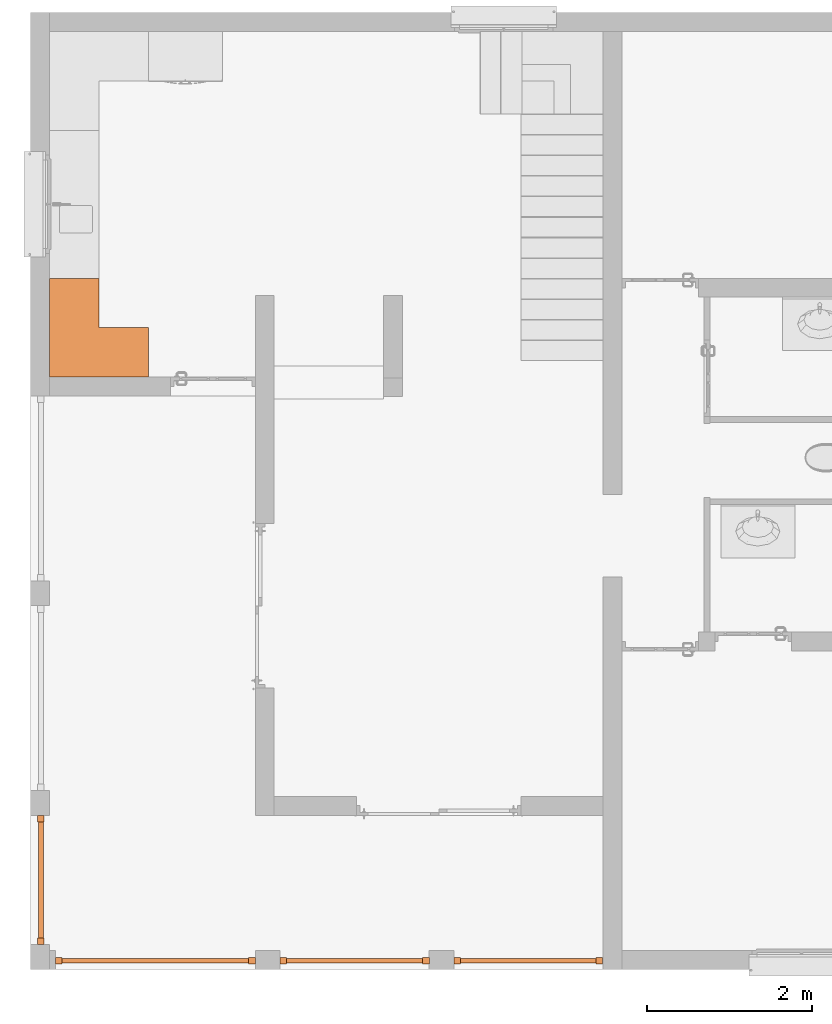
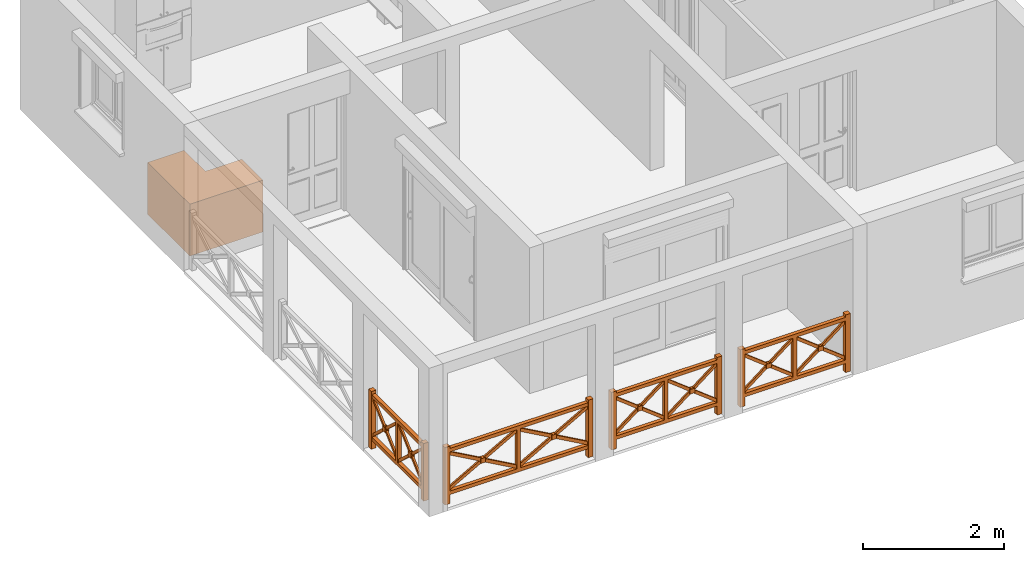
# One storey, part 13 of 17: 5 proxies.
"""IFC2X3 building model written with IfcOpenShell, lengths in metres."""

from ifc_helpers import new_model, entity, si_unit, converted_unit, derived_unit, money_unit, direction, frame, origin_with_axes, place, context, subcontext, project, spatial, faceted_brep, type_object, element, save


model = new_model("IFC2X3")

# Units and contexts
model_context = context("Model", 3, precision=1e-05, world=origin_with_axes(), true_north=direction((0.0, 1.0)))
body_context = subcontext(model_context, "Body", "Model", "MODEL_VIEW")
ifc_project = project(units=[si_unit("LENGTHUNIT", "METRE"), si_unit("AREAUNIT", "SQUARE_METRE"), si_unit("VOLUMEUNIT", "CUBIC_METRE"), converted_unit("PLANEANGLEUNIT", "DEGREE", entity("IfcPlaneAngleMeasure", 0.0174532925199), si_unit("PLANEANGLEUNIT", "RADIAN"), dimensions=[0, 0, 0, 0, 0, 0, 0]), si_unit("SOLIDANGLEUNIT", "STERADIAN"), money_unit("CHF"), converted_unit("TIMEUNIT", "Year", entity("IfcTimeMeasure", 31556926.0), si_unit("TIMEUNIT", "SECOND"), dimensions=[0, 0, 1, 0, 0, 0, 0]), si_unit("MASSUNIT", "GRAM", prefix="KILO"), si_unit("THERMODYNAMICTEMPERATUREUNIT", "DEGREE_CELSIUS"), si_unit("LUMINOUSINTENSITYUNIT", "LUMEN"), si_unit("ENERGYUNIT", "JOULE", prefix="MEGA"), derived_unit("THERMALCONDUCTANCEUNIT", [(si_unit("POWERUNIT", "WATT"), 1), (si_unit("LENGTHUNIT", "METRE"), -1), (si_unit("THERMODYNAMICTEMPERATUREUNIT", "KELVIN"), -1)]), derived_unit("SPECIFICHEATCAPACITYUNIT", [(si_unit("ENERGYUNIT", "JOULE"), 1), (si_unit("MASSUNIT", "GRAM", prefix="KILO"), -1), (si_unit("THERMODYNAMICTEMPERATUREUNIT", "KELVIN"), -1)]), derived_unit("MASSDENSITYUNIT", [(si_unit("MASSUNIT", "GRAM", prefix="KILO"), 1), (si_unit("VOLUMEUNIT", "CUBIC_METRE"), -1)])], contexts=[model_context])

# Site, building, storey
site_placement = place(None, origin_with_axes())
site = spatial("IfcSite", under=ifc_project, at=site_placement, Name="Site", CompositionType="ELEMENT")
building_placement = place(site_placement, origin_with_axes())
building = spatial("IfcBuilding", under=site, at=building_placement, Name="Bâtiment", CompositionType="ELEMENT")
storey_placement = place(building_placement, frame((0.0, 0.0, 3.0), z_axis=(0.0, 0.0, 1.0), x_axis=(1.0, 0.0, 0.0)))
storey = spatial("IfcBuildingStorey", under=building, at=storey_placement, Name="RDJ", CompositionType="ELEMENT", Elevation=3.0)

# Proxies
building_element_proxy_type_1 = type_object("IfcBuildingElementProxyType", PredefinedType="NOTDEFINED")
proxy_1_placement = place(storey_placement, frame((84.907056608, 8.26538199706, -3.00999998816), z_axis=(0.0, 0.0, 1.0), x_axis=(0.0, 1.0, 0.0)))
element("IfcBuildingElementProxy", 1, at=proxy_1_placement, inside=storey, type_object=building_element_proxy_type_1, Name="MOB-1224", context=body_context, shape_type="Brep", body=[
    faceted_brep([(0.70388460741, -0.04, 0.0), (0.70388460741, 0.04, 0.0), (0.78388460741, 0.04, 0.0), (0.78388460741, -0.04, 0.0), (0.70388460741, -0.04, 1.0), (0.70388460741, 0.04, 1.0), (0.78388460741, 0.04, 1.0), (0.78388460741, -0.04, 1.0)], [[[0, 1, 2, 3]], [[0, 4, 5, 1]], [[1, 5, 6, 2]], [[2, 6, 7, 3]], [[3, 7, 4, 0]], [[7, 6, 5, 4]]]),
    faceted_brep([(-0.78388460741, -0.04, 0.0), (-0.78388460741, 0.04, 0.0), (-0.70388460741, 0.04, 0.0), (-0.70388460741, -0.04, 0.0), (-0.78388460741, -0.04, 1.0), (-0.78388460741, 0.04, 1.0), (-0.70388460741, 0.04, 1.0), (-0.70388460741, -0.04, 1.0)], [[[0, 1, 2, 3]], [[0, 4, 5, 1]], [[1, 5, 6, 2]], [[2, 6, 7, 3]], [[3, 7, 4, 0]], [[7, 6, 5, 4]]]),
    faceted_brep([(-0.03, -0.03, 0.21), (-0.03, 0.03, 0.21), (0.03, 0.03, 0.21), (0.03, -0.03, 0.21), (-0.03, -0.03, 0.89), (-0.03, 0.03, 0.89), (0.03, 0.03, 0.89), (0.03, -0.03, 0.89)], [[[0, 1, 2, 3]], [[0, 4, 5, 1]], [[1, 5, 6, 2]], [[2, 6, 7, 3]], [[3, 7, 4, 0]], [[7, 6, 5, 4]]]),
    faceted_brep([(-0.70388460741, -0.03, 0.89), (-0.70388460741, 0.03, 0.89), (0.70388460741, 0.03, 0.89), (0.70388460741, -0.03, 0.89), (-0.70388460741, -0.03, 0.95), (-0.70388460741, 0.03, 0.95), (0.70388460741, 0.03, 0.95), (0.70388460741, -0.03, 0.95)], [[[0, 1, 2, 3]], [[0, 4, 5, 1]], [[1, 5, 6, 2]], [[2, 6, 7, 3]], [[3, 7, 4, 0]], [[7, 6, 5, 4]]]),
    faceted_brep([(-0.70388460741, -0.03, 0.15), (-0.70388460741, 0.03, 0.15), (0.70388460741, 0.03, 0.15), (0.70388460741, -0.03, 0.15), (-0.70388460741, -0.03, 0.21), (-0.70388460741, 0.03, 0.21), (0.70388460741, 0.03, 0.21), (0.70388460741, -0.03, 0.21)], [[[0, 1, 2, 3]], [[0, 4, 5, 1]], [[1, 5, 6, 2]], [[2, 6, 7, 3]], [[3, 7, 4, 0]], [[7, 6, 5, 4]]]),
    faceted_brep([(0.70388460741, 0.015, 0.21), (0.70388460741, -0.015, 0.21), (0.03, -0.015, 0.83), (0.03, 0.015, 0.83), (0.70388460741, 0.015, 0.27), (0.70388460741, -0.015, 0.27), (0.03, -0.015, 0.89), (0.03, 0.015, 0.89)], [[[0, 1, 2, 3]], [[4, 5, 1, 0]], [[1, 5, 6, 2]], [[3, 2, 6, 7]], [[0, 3, 7, 4]], [[7, 6, 5, 4]]]),
    faceted_brep([(0.70388460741, 0.015, 0.89), (0.70388460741, -0.015, 0.89), (0.70388460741, -0.015, 0.83), (0.70388460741, 0.015, 0.83), (0.03, 0.015, 0.27), (0.03, -0.015, 0.27), (0.03, -0.015, 0.21), (0.03, 0.015, 0.21)], [[[0, 1, 2, 3]], [[4, 5, 1, 0]], [[1, 5, 6, 2]], [[3, 2, 6, 7]], [[0, 3, 7, 4]], [[7, 6, 5, 4]]]),
    faceted_brep([(0.326942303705, -0.03, 0.51), (0.326942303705, 0.03, 0.51), (0.406942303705, 0.03, 0.51), (0.406942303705, -0.03, 0.51), (0.326942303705, -0.03, 0.59), (0.326942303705, 0.03, 0.59), (0.406942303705, 0.03, 0.59), (0.406942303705, -0.03, 0.59)], [[[0, 1, 2, 3]], [[0, 4, 5, 1]], [[1, 5, 6, 2]], [[2, 6, 7, 3]], [[3, 7, 4, 0]], [[7, 6, 5, 4]]]),
    faceted_brep([(-0.03, 0.015, 0.21), (-0.03, -0.015, 0.21), (-0.70388460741, -0.015, 0.83), (-0.70388460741, 0.015, 0.83), (-0.03, 0.015, 0.27), (-0.03, -0.015, 0.27), (-0.70388460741, -0.015, 0.89), (-0.70388460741, 0.015, 0.89)], [[[0, 1, 2, 3]], [[4, 5, 1, 0]], [[1, 5, 6, 2]], [[3, 2, 6, 7]], [[0, 3, 7, 4]], [[7, 6, 5, 4]]]),
    faceted_brep([(-0.03, 0.015, 0.89), (-0.03, -0.015, 0.89), (-0.03, -0.015, 0.83), (-0.03, 0.015, 0.83), (-0.70388460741, 0.015, 0.27), (-0.70388460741, -0.015, 0.27), (-0.70388460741, -0.015, 0.21), (-0.70388460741, 0.015, 0.21)], [[[0, 1, 2, 3]], [[4, 5, 1, 0]], [[1, 5, 6, 2]], [[3, 2, 6, 7]], [[0, 3, 7, 4]], [[7, 6, 5, 4]]]),
    faceted_brep([(-0.406942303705, -0.03, 0.51), (-0.406942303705, 0.03, 0.51), (-0.326942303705, 0.03, 0.51), (-0.326942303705, -0.03, 0.51), (-0.406942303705, -0.03, 0.59), (-0.406942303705, 0.03, 0.59), (-0.326942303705, 0.03, 0.59), (-0.326942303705, -0.03, 0.59)], [[[0, 1, 2, 3]], [[0, 4, 5, 1]], [[1, 5, 6, 2]], [[2, 6, 7, 3]], [[3, 7, 4, 0]], [[7, 6, 5, 4]]]),
])
proxy_2_placement = place(storey_placement, frame((86.2985190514, 7.28431482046, -3.00999998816), z_axis=(0.0, 0.0, 1.0), x_axis=(1.0, 0.0, 0.0)))
element("IfcBuildingElementProxy", 2, at=proxy_2_placement, inside=storey, type_object=building_element_proxy_type_1, Name="MOB-1224", context=body_context, shape_type="Brep", body=[
    faceted_brep([(1.135, -0.04, 0.0), (1.135, 0.04, 0.0), (1.215, 0.04, 0.0), (1.215, -0.04, 0.0), (1.135, -0.04, 1.0), (1.135, 0.04, 1.0), (1.215, 0.04, 1.0), (1.215, -0.04, 1.0)], [[[0, 1, 2, 3]], [[0, 4, 5, 1]], [[1, 5, 6, 2]], [[2, 6, 7, 3]], [[3, 7, 4, 0]], [[7, 6, 5, 4]]]),
    faceted_brep([(-1.215, -0.04, 0.0), (-1.215, 0.04, 0.0), (-1.135, 0.04, 0.0), (-1.135, -0.04, 0.0), (-1.215, -0.04, 1.0), (-1.215, 0.04, 1.0), (-1.135, 0.04, 1.0), (-1.135, -0.04, 1.0)], [[[0, 1, 2, 3]], [[0, 4, 5, 1]], [[1, 5, 6, 2]], [[2, 6, 7, 3]], [[3, 7, 4, 0]], [[7, 6, 5, 4]]]),
    faceted_brep([(-0.03, -0.03, 0.21), (-0.03, 0.03, 0.21), (0.03, 0.03, 0.21), (0.03, -0.03, 0.21), (-0.03, -0.03, 0.89), (-0.03, 0.03, 0.89), (0.03, 0.03, 0.89), (0.03, -0.03, 0.89)], [[[0, 1, 2, 3]], [[0, 4, 5, 1]], [[1, 5, 6, 2]], [[2, 6, 7, 3]], [[3, 7, 4, 0]], [[7, 6, 5, 4]]]),
    faceted_brep([(-1.135, -0.03, 0.89), (-1.135, 0.03, 0.89), (1.135, 0.03, 0.89), (1.135, -0.03, 0.89), (-1.135, -0.03, 0.95), (-1.135, 0.03, 0.95), (1.135, 0.03, 0.95), (1.135, -0.03, 0.95)], [[[0, 1, 2, 3]], [[0, 4, 5, 1]], [[1, 5, 6, 2]], [[2, 6, 7, 3]], [[3, 7, 4, 0]], [[7, 6, 5, 4]]]),
    faceted_brep([(-1.135, -0.03, 0.15), (-1.135, 0.03, 0.15), (1.135, 0.03, 0.15), (1.135, -0.03, 0.15), (-1.135, -0.03, 0.21), (-1.135, 0.03, 0.21), (1.135, 0.03, 0.21), (1.135, -0.03, 0.21)], [[[0, 1, 2, 3]], [[0, 4, 5, 1]], [[1, 5, 6, 2]], [[2, 6, 7, 3]], [[3, 7, 4, 0]], [[7, 6, 5, 4]]]),
    faceted_brep([(1.135, 0.015, 0.21), (1.135, -0.015, 0.21), (0.03, -0.015, 0.83), (0.03, 0.015, 0.83), (1.135, 0.015, 0.27), (1.135, -0.015, 0.27), (0.03, -0.015, 0.89), (0.03, 0.015, 0.89)], [[[0, 1, 2, 3]], [[4, 5, 1, 0]], [[1, 5, 6, 2]], [[3, 2, 6, 7]], [[0, 3, 7, 4]], [[7, 6, 5, 4]]]),
    faceted_brep([(1.135, 0.015, 0.89), (1.135, -0.015, 0.89), (1.135, -0.015, 0.83), (1.135, 0.015, 0.83), (0.03, 0.015, 0.27), (0.03, -0.015, 0.27), (0.03, -0.015, 0.21), (0.03, 0.015, 0.21)], [[[0, 1, 2, 3]], [[4, 5, 1, 0]], [[1, 5, 6, 2]], [[3, 2, 6, 7]], [[0, 3, 7, 4]], [[7, 6, 5, 4]]]),
    faceted_brep([(0.5425, -0.03, 0.51), (0.5425, 0.03, 0.51), (0.6225, 0.03, 0.51), (0.6225, -0.03, 0.51), (0.5425, -0.03, 0.59), (0.5425, 0.03, 0.59), (0.6225, 0.03, 0.59), (0.6225, -0.03, 0.59)], [[[0, 1, 2, 3]], [[0, 4, 5, 1]], [[1, 5, 6, 2]], [[2, 6, 7, 3]], [[3, 7, 4, 0]], [[7, 6, 5, 4]]]),
    faceted_brep([(-0.03, 0.015, 0.21), (-0.03, -0.015, 0.21), (-1.135, -0.015, 0.83), (-1.135, 0.015, 0.83), (-0.03, 0.015, 0.27), (-0.03, -0.015, 0.27), (-1.135, -0.015, 0.89), (-1.135, 0.015, 0.89)], [[[0, 1, 2, 3]], [[4, 5, 1, 0]], [[1, 5, 6, 2]], [[3, 2, 6, 7]], [[0, 3, 7, 4]], [[7, 6, 5, 4]]]),
    faceted_brep([(-0.03, 0.015, 0.89), (-0.03, -0.015, 0.89), (-0.03, -0.015, 0.83), (-0.03, 0.015, 0.83), (-1.135, 0.015, 0.27), (-1.135, -0.015, 0.27), (-1.135, -0.015, 0.21), (-1.135, 0.015, 0.21)], [[[0, 1, 2, 3]], [[4, 5, 1, 0]], [[1, 5, 6, 2]], [[3, 2, 6, 7]], [[0, 3, 7, 4]], [[7, 6, 5, 4]]]),
    faceted_brep([(-0.6225, -0.03, 0.51), (-0.6225, 0.03, 0.51), (-0.5425, 0.03, 0.51), (-0.5425, -0.03, 0.51), (-0.6225, -0.03, 0.59), (-0.6225, 0.03, 0.59), (-0.5425, 0.03, 0.59), (-0.5425, -0.03, 0.59)], [[[0, 1, 2, 3]], [[0, 4, 5, 1]], [[1, 5, 6, 2]], [[2, 6, 7, 3]], [[3, 7, 4, 0]], [[7, 6, 5, 4]]]),
])
proxy_3_placement = place(storey_placement, frame((88.7213539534, 7.28431482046, -3.00999998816), z_axis=(0.0, 0.0, 1.0), x_axis=(1.0, 0.0, 0.0)))
element("IfcBuildingElementProxy", 3, at=proxy_3_placement, inside=storey, type_object=building_element_proxy_type_1, Name="MOB-1224", context=body_context, shape_type="Brep", body=[
    faceted_brep([(0.827834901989, -0.04, 0.0), (0.827834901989, 0.04, 0.0), (0.907834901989, 0.04, 0.0), (0.907834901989, -0.04, 0.0), (0.827834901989, -0.04, 1.0), (0.827834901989, 0.04, 1.0), (0.907834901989, 0.04, 1.0), (0.907834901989, -0.04, 1.0)], [[[0, 1, 2, 3]], [[0, 4, 5, 1]], [[1, 5, 6, 2]], [[2, 6, 7, 3]], [[3, 7, 4, 0]], [[7, 6, 5, 4]]]),
    faceted_brep([(-0.907834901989, -0.04, 0.0), (-0.907834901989, 0.04, 0.0), (-0.827834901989, 0.04, 0.0), (-0.827834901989, -0.04, 0.0), (-0.907834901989, -0.04, 1.0), (-0.907834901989, 0.04, 1.0), (-0.827834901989, 0.04, 1.0), (-0.827834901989, -0.04, 1.0)], [[[0, 1, 2, 3]], [[0, 4, 5, 1]], [[1, 5, 6, 2]], [[2, 6, 7, 3]], [[3, 7, 4, 0]], [[7, 6, 5, 4]]]),
    faceted_brep([(-0.03, -0.03, 0.21), (-0.03, 0.03, 0.21), (0.03, 0.03, 0.21), (0.03, -0.03, 0.21), (-0.03, -0.03, 0.89), (-0.03, 0.03, 0.89), (0.03, 0.03, 0.89), (0.03, -0.03, 0.89)], [[[0, 1, 2, 3]], [[0, 4, 5, 1]], [[1, 5, 6, 2]], [[2, 6, 7, 3]], [[3, 7, 4, 0]], [[7, 6, 5, 4]]]),
    faceted_brep([(-0.827834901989, -0.03, 0.89), (-0.827834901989, 0.03, 0.89), (0.827834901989, 0.03, 0.89), (0.827834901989, -0.03, 0.89), (-0.827834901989, -0.03, 0.95), (-0.827834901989, 0.03, 0.95), (0.827834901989, 0.03, 0.95), (0.827834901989, -0.03, 0.95)], [[[0, 1, 2, 3]], [[0, 4, 5, 1]], [[1, 5, 6, 2]], [[2, 6, 7, 3]], [[3, 7, 4, 0]], [[7, 6, 5, 4]]]),
    faceted_brep([(-0.827834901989, -0.03, 0.15), (-0.827834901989, 0.03, 0.15), (0.827834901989, 0.03, 0.15), (0.827834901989, -0.03, 0.15), (-0.827834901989, -0.03, 0.21), (-0.827834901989, 0.03, 0.21), (0.827834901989, 0.03, 0.21), (0.827834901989, -0.03, 0.21)], [[[0, 1, 2, 3]], [[0, 4, 5, 1]], [[1, 5, 6, 2]], [[2, 6, 7, 3]], [[3, 7, 4, 0]], [[7, 6, 5, 4]]]),
    faceted_brep([(0.827834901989, 0.015, 0.21), (0.827834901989, -0.015, 0.21), (0.03, -0.015, 0.83), (0.03, 0.015, 0.83), (0.827834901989, 0.015, 0.27), (0.827834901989, -0.015, 0.27), (0.03, -0.015, 0.89), (0.03, 0.015, 0.89)], [[[0, 1, 2, 3]], [[4, 5, 1, 0]], [[1, 5, 6, 2]], [[3, 2, 6, 7]], [[0, 3, 7, 4]], [[7, 6, 5, 4]]]),
    faceted_brep([(0.827834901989, 0.015, 0.89), (0.827834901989, -0.015, 0.89), (0.827834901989, -0.015, 0.83), (0.827834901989, 0.015, 0.83), (0.03, 0.015, 0.27), (0.03, -0.015, 0.27), (0.03, -0.015, 0.21), (0.03, 0.015, 0.21)], [[[0, 1, 2, 3]], [[4, 5, 1, 0]], [[1, 5, 6, 2]], [[3, 2, 6, 7]], [[0, 3, 7, 4]], [[7, 6, 5, 4]]]),
    faceted_brep([(0.388917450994, -0.03, 0.51), (0.388917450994, 0.03, 0.51), (0.468917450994, 0.03, 0.51), (0.468917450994, -0.03, 0.51), (0.388917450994, -0.03, 0.59), (0.388917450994, 0.03, 0.59), (0.468917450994, 0.03, 0.59), (0.468917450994, -0.03, 0.59)], [[[0, 1, 2, 3]], [[0, 4, 5, 1]], [[1, 5, 6, 2]], [[2, 6, 7, 3]], [[3, 7, 4, 0]], [[7, 6, 5, 4]]]),
    faceted_brep([(-0.03, 0.015, 0.21), (-0.03, -0.015, 0.21), (-0.827834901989, -0.015, 0.83), (-0.827834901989, 0.015, 0.83), (-0.03, 0.015, 0.27), (-0.03, -0.015, 0.27), (-0.827834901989, -0.015, 0.89), (-0.827834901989, 0.015, 0.89)], [[[0, 1, 2, 3]], [[4, 5, 1, 0]], [[1, 5, 6, 2]], [[3, 2, 6, 7]], [[0, 3, 7, 4]], [[7, 6, 5, 4]]]),
    faceted_brep([(-0.03, 0.015, 0.89), (-0.03, -0.015, 0.89), (-0.03, -0.015, 0.83), (-0.03, 0.015, 0.83), (-0.827834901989, 0.015, 0.27), (-0.827834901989, -0.015, 0.27), (-0.827834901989, -0.015, 0.21), (-0.827834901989, 0.015, 0.21)], [[[0, 1, 2, 3]], [[4, 5, 1, 0]], [[1, 5, 6, 2]], [[3, 2, 6, 7]], [[0, 3, 7, 4]], [[7, 6, 5, 4]]]),
    faceted_brep([(-0.468917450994, -0.03, 0.51), (-0.468917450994, 0.03, 0.51), (-0.388917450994, 0.03, 0.51), (-0.388917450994, -0.03, 0.51), (-0.468917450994, -0.03, 0.59), (-0.468917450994, 0.03, 0.59), (-0.388917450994, 0.03, 0.59), (-0.388917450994, -0.03, 0.59)], [[[0, 1, 2, 3]], [[0, 4, 5, 1]], [[1, 5, 6, 2]], [[2, 6, 7, 3]], [[3, 7, 4, 0]], [[7, 6, 5, 4]]]),
])
proxy_4_placement = place(storey_placement, frame((90.8327979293, 7.28431482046, -3.00999998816), z_axis=(0.0, 0.0, 1.0), x_axis=(1.0, 0.0, 0.0)))
element("IfcBuildingElementProxy", 4, at=proxy_4_placement, inside=storey, type_object=building_element_proxy_type_1, Name="MOB-1224", context=body_context, shape_type="Brep", body=[
    faceted_brep([(0.824278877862, -0.04, 0.0), (0.824278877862, 0.04, 0.0), (0.904278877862, 0.04, 0.0), (0.904278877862, -0.04, 0.0), (0.824278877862, -0.04, 1.0), (0.824278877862, 0.04, 1.0), (0.904278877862, 0.04, 1.0), (0.904278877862, -0.04, 1.0)], [[[0, 1, 2, 3]], [[0, 4, 5, 1]], [[1, 5, 6, 2]], [[2, 6, 7, 3]], [[3, 7, 4, 0]], [[7, 6, 5, 4]]]),
    faceted_brep([(-0.904278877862, -0.04, 0.0), (-0.904278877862, 0.04, 0.0), (-0.824278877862, 0.04, 0.0), (-0.824278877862, -0.04, 0.0), (-0.904278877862, -0.04, 1.0), (-0.904278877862, 0.04, 1.0), (-0.824278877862, 0.04, 1.0), (-0.824278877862, -0.04, 1.0)], [[[0, 1, 2, 3]], [[0, 4, 5, 1]], [[1, 5, 6, 2]], [[2, 6, 7, 3]], [[3, 7, 4, 0]], [[7, 6, 5, 4]]]),
    faceted_brep([(-0.03, -0.03, 0.21), (-0.03, 0.03, 0.21), (0.03, 0.03, 0.21), (0.03, -0.03, 0.21), (-0.03, -0.03, 0.89), (-0.03, 0.03, 0.89), (0.03, 0.03, 0.89), (0.03, -0.03, 0.89)], [[[0, 1, 2, 3]], [[0, 4, 5, 1]], [[1, 5, 6, 2]], [[2, 6, 7, 3]], [[3, 7, 4, 0]], [[7, 6, 5, 4]]]),
    faceted_brep([(-0.824278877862, -0.03, 0.89), (-0.824278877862, 0.03, 0.89), (0.824278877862, 0.03, 0.89), (0.824278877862, -0.03, 0.89), (-0.824278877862, -0.03, 0.95), (-0.824278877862, 0.03, 0.95), (0.824278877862, 0.03, 0.95), (0.824278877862, -0.03, 0.95)], [[[0, 1, 2, 3]], [[0, 4, 5, 1]], [[1, 5, 6, 2]], [[2, 6, 7, 3]], [[3, 7, 4, 0]], [[7, 6, 5, 4]]]),
    faceted_brep([(-0.824278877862, -0.03, 0.15), (-0.824278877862, 0.03, 0.15), (0.824278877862, 0.03, 0.15), (0.824278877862, -0.03, 0.15), (-0.824278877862, -0.03, 0.21), (-0.824278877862, 0.03, 0.21), (0.824278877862, 0.03, 0.21), (0.824278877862, -0.03, 0.21)], [[[0, 1, 2, 3]], [[0, 4, 5, 1]], [[1, 5, 6, 2]], [[2, 6, 7, 3]], [[3, 7, 4, 0]], [[7, 6, 5, 4]]]),
    faceted_brep([(0.824278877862, 0.015, 0.21), (0.824278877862, -0.015, 0.21), (0.03, -0.015, 0.83), (0.03, 0.015, 0.83), (0.824278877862, 0.015, 0.27), (0.824278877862, -0.015, 0.27), (0.03, -0.015, 0.89), (0.03, 0.015, 0.89)], [[[0, 1, 2, 3]], [[4, 5, 1, 0]], [[1, 5, 6, 2]], [[3, 2, 6, 7]], [[0, 3, 7, 4]], [[7, 6, 5, 4]]]),
    faceted_brep([(0.824278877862, 0.015, 0.89), (0.824278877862, -0.015, 0.89), (0.824278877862, -0.015, 0.83), (0.824278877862, 0.015, 0.83), (0.03, 0.015, 0.27), (0.03, -0.015, 0.27), (0.03, -0.015, 0.21), (0.03, 0.015, 0.21)], [[[0, 1, 2, 3]], [[4, 5, 1, 0]], [[1, 5, 6, 2]], [[3, 2, 6, 7]], [[0, 3, 7, 4]], [[7, 6, 5, 4]]]),
    faceted_brep([(0.387139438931, -0.03, 0.51), (0.387139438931, 0.03, 0.51), (0.467139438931, 0.03, 0.51), (0.467139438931, -0.03, 0.51), (0.387139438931, -0.03, 0.59), (0.387139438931, 0.03, 0.59), (0.467139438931, 0.03, 0.59), (0.467139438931, -0.03, 0.59)], [[[0, 1, 2, 3]], [[0, 4, 5, 1]], [[1, 5, 6, 2]], [[2, 6, 7, 3]], [[3, 7, 4, 0]], [[7, 6, 5, 4]]]),
    faceted_brep([(-0.03, 0.015, 0.21), (-0.03, -0.015, 0.21), (-0.824278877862, -0.015, 0.83), (-0.824278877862, 0.015, 0.83), (-0.03, 0.015, 0.27), (-0.03, -0.015, 0.27), (-0.824278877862, -0.015, 0.89), (-0.824278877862, 0.015, 0.89)], [[[0, 1, 2, 3]], [[4, 5, 1, 0]], [[1, 5, 6, 2]], [[3, 2, 6, 7]], [[0, 3, 7, 4]], [[7, 6, 5, 4]]]),
    faceted_brep([(-0.03, 0.015, 0.89), (-0.03, -0.015, 0.89), (-0.03, -0.015, 0.83), (-0.03, 0.015, 0.83), (-0.824278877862, 0.015, 0.27), (-0.824278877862, -0.015, 0.27), (-0.824278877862, -0.015, 0.21), (-0.824278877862, 0.015, 0.21)], [[[0, 1, 2, 3]], [[4, 5, 1, 0]], [[1, 5, 6, 2]], [[3, 2, 6, 7]], [[0, 3, 7, 4]], [[7, 6, 5, 4]]]),
    faceted_brep([(-0.467139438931, -0.03, 0.51), (-0.467139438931, 0.03, 0.51), (-0.387139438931, 0.03, 0.51), (-0.387139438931, -0.03, 0.51), (-0.467139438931, -0.03, 0.59), (-0.467139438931, 0.03, 0.59), (-0.387139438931, 0.03, 0.59), (-0.387139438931, -0.03, 0.59)], [[[0, 1, 2, 3]], [[0, 4, 5, 1]], [[1, 5, 6, 2]], [[2, 6, 7, 3]], [[3, 7, 4, 0]], [[7, 6, 5, 4]]]),
])
building_element_proxy_type_2 = type_object("IfcBuildingElementProxyType", Name="Elément bas d'angle L 24", PredefinedType="NOTDEFINED")
proxy_5_placement = place(storey_placement, frame((86.2135190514, 14.3803410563, -2.99), z_axis=(0.0, 0.0, 1.0), x_axis=(0.0, 1.0, 0.0)))
element("IfcBuildingElementProxy", 5, at=proxy_5_placement, inside=storey, type_object=building_element_proxy_type_2, Name="MOB-1202", context=body_context, shape_type="Brep", body=[
    faceted_brep([(0.0, 0.0, 0.0), (0.53, 0.0, 0.0), (0.53, 0.0, 0.09), (0.0, 0.0, 0.09), (0.0, 1.2, 0.0), (1.2, 1.2, 0.0), (1.2, 0.67, 0.0), (0.53, 0.67, 0.0), (0.53, 0.67, 0.09), (1.2, 0.67, 0.09), (1.2, 1.2, 0.09), (0.0, 1.2, 0.09)], [[[0, 1, 2, 3]], [[0, 4, 5, 6, 7, 1]], [[1, 7, 8, 2]], [[3, 2, 8, 9, 10, 11]], [[4, 0, 3, 11]], [[5, 4, 11, 10]], [[6, 5, 10, 9]], [[7, 6, 9, 8]]]),
    faceted_brep([(0.0, 0.0, 0.09), (0.53, 0.0, 0.09), (0.53, 0.0, 0.11), (0.0, 0.0, 0.11), (0.0, 0.02, 0.09), (0.0, 1.18, 0.09), (0.0, 1.2, 0.09), (1.2, 1.2, 0.09), (1.2, 0.67, 0.09), (1.18, 0.67, 0.09), (0.56, 0.67, 0.09), (0.53, 0.67, 0.09), (0.53, 0.64, 0.09), (0.53, 0.02, 0.09), (0.53, 0.02, 0.11), (0.53, 0.64, 0.11), (0.53, 0.67, 0.11), (0.56, 0.67, 0.11), (1.18, 0.67, 0.11), (1.2, 0.67, 0.11), (1.2, 1.2, 0.11), (0.0, 1.2, 0.11), (0.0, 1.18, 0.11), (0.0, 0.02, 0.11)], [[[0, 1, 2, 3]], [[0, 4, 5, 6, 7, 8, 9, 10, 11, 12, 13, 1]], [[1, 13, 14, 2]], [[3, 2, 14, 15, 16, 17, 18, 19, 20, 21, 22, 23]], [[4, 0, 3, 23]], [[5, 4, 23, 22]], [[6, 5, 22, 21]], [[7, 6, 21, 20]], [[8, 7, 20, 19]], [[9, 8, 19, 18]], [[10, 9, 18, 17]], [[11, 10, 17, 16]], [[12, 11, 16, 15]], [[13, 12, 15, 14]]]),
    faceted_brep([(0.0, 0.0, 0.11), (0.53, 0.0, 0.11), (0.53, 0.0, 0.83), (0.0, 0.0, 0.83), (0.0, 1.2, 0.11), (1.2, 1.2, 0.11), (1.2, 0.67, 0.11), (1.18, 0.67, 0.11), (1.18, 1.18, 0.11), (0.02, 1.18, 0.11), (0.02, 0.02, 0.11), (0.53, 0.02, 0.11), (0.53, 0.02, 0.83), (0.02, 0.02, 0.83), (0.02, 1.18, 0.83), (1.18, 1.18, 0.83), (1.18, 0.67, 0.83), (1.2, 0.67, 0.83), (1.2, 1.2, 0.83), (0.0, 1.2, 0.83)], [[[0, 1, 2, 3]], [[0, 4, 5, 6, 7, 8, 9, 10, 11, 1]], [[1, 11, 12, 2]], [[3, 2, 12, 13, 14, 15, 16, 17, 18, 19]], [[4, 0, 3, 19]], [[5, 4, 19, 18]], [[6, 5, 18, 17]], [[7, 6, 17, 16]], [[8, 7, 16, 15]], [[9, 8, 15, 14]], [[10, 9, 14, 13]], [[11, 10, 13, 12]]]),
    faceted_brep([(0.51, 0.64, 0.11), (0.53, 0.64, 0.11), (0.53, 0.64, 0.83), (0.51, 0.64, 0.83), (0.51, 0.69, 0.11), (0.56, 0.69, 0.11), (0.56, 0.67, 0.11), (0.53, 0.67, 0.11), (0.53, 0.67, 0.83), (0.56, 0.67, 0.83), (0.56, 0.69, 0.83), (0.51, 0.69, 0.83)], [[[0, 1, 2, 3]], [[0, 4, 5, 6, 7, 1]], [[1, 7, 8, 2]], [[3, 2, 8, 9, 10, 11]], [[4, 0, 3, 11]], [[5, 4, 11, 10]], [[6, 5, 10, 9]], [[7, 6, 9, 8]]]),
    faceted_brep([(0.0, 0.0, 0.83), (0.53, 0.0, 0.83), (0.53, 0.0, 0.85), (0.0, 0.0, 0.85), (0.0, 0.02, 0.83), (0.0, 1.18, 0.83), (0.0, 1.2, 0.83), (1.2, 1.2, 0.83), (1.2, 0.67, 0.83), (1.18, 0.67, 0.83), (0.56, 0.67, 0.83), (0.53, 0.67, 0.83), (0.53, 0.64, 0.83), (0.53, 0.02, 0.83), (0.53, 0.02, 0.85), (0.53, 0.64, 0.85), (0.53, 0.67, 0.85), (0.56, 0.67, 0.85), (1.18, 0.67, 0.85), (1.2, 0.67, 0.85), (1.2, 1.2, 0.85), (0.0, 1.2, 0.85), (0.0, 1.18, 0.85), (0.0, 0.02, 0.85)], [[[0, 1, 2, 3]], [[0, 4, 5, 6, 7, 8, 9, 10, 11, 12, 13, 1]], [[1, 13, 14, 2]], [[3, 2, 14, 15, 16, 17, 18, 19, 20, 21, 22, 23]], [[4, 0, 3, 23]], [[5, 4, 23, 22]], [[6, 5, 22, 21]], [[7, 6, 21, 20]], [[8, 7, 20, 19]], [[9, 8, 19, 18]], [[10, 9, 18, 17]], [[11, 10, 17, 16]], [[12, 11, 16, 15]], [[13, 12, 15, 14]]]),
    faceted_brep([(0.0, 0.0, 0.85), (0.6, 0.0, 0.85), (0.6, 0.0, 0.9), (0.0, 0.0, 0.9), (0.0, 1.2, 0.85), (1.2, 1.2, 0.85), (1.2, 0.6, 0.85), (0.6, 0.6, 0.85), (0.6, 0.6, 0.9), (1.2, 0.6, 0.9), (1.2, 1.2, 0.9), (0.0, 1.2, 0.9)], [[[0, 1, 2, 3]], [[0, 4, 5, 6, 7, 1]], [[1, 7, 8, 2]], [[3, 2, 8, 9, 10, 11]], [[4, 0, 3, 11]], [[5, 4, 11, 10]], [[6, 5, 10, 9]], [[7, 6, 9, 8]]]),
    faceted_brep([(0.51, 0.64, 0.73), (0.51, 0.69, 0.73), (0.56, 0.69, 0.73), (0.56, 0.67, 0.73), (1.18, 0.67, 0.73), (1.18, 1.18, 0.73), (0.02, 1.18, 0.73), (0.02, 0.02, 0.73), (0.53, 0.02, 0.73), (0.53, 0.64, 0.73), (0.51, 0.64, 0.71), (0.51, 0.69, 0.71), (0.56, 0.69, 0.71), (0.56, 0.67, 0.71), (1.18, 0.67, 0.71), (1.18, 1.18, 0.71), (0.02, 1.18, 0.71), (0.02, 0.02, 0.71), (0.53, 0.02, 0.71), (0.53, 0.64, 0.71)], [[[0, 1, 2, 3, 4, 5, 6, 7, 8, 9]], [[1, 0, 10, 11]], [[2, 1, 11, 12]], [[3, 2, 12, 13]], [[3, 13, 14, 4]], [[15, 5, 4, 14]], [[16, 6, 5, 15]], [[17, 7, 6, 16]], [[18, 8, 7, 17]], [[19, 9, 8, 18]], [[0, 9, 19, 10]], [[10, 19, 18, 17, 16, 15, 14, 13, 12, 11]]]),
    faceted_brep([(0.51, 0.64, 0.405), (0.51, 0.69, 0.405), (0.56, 0.69, 0.405), (0.56, 0.67, 0.405), (1.18, 0.67, 0.405), (1.18, 1.18, 0.405), (0.02, 1.18, 0.405), (0.02, 0.02, 0.405), (0.53, 0.02, 0.405), (0.53, 0.64, 0.405), (0.51, 0.64, 0.385), (0.51, 0.69, 0.385), (0.56, 0.69, 0.385), (0.56, 0.67, 0.385), (1.18, 0.67, 0.385), (1.18, 1.18, 0.385), (0.02, 1.18, 0.385), (0.02, 0.02, 0.385), (0.53, 0.02, 0.385), (0.53, 0.64, 0.385)], [[[0, 1, 2, 3, 4, 5, 6, 7, 8, 9]], [[1, 0, 10, 11]], [[2, 1, 11, 12]], [[3, 2, 12, 13]], [[3, 13, 14, 4]], [[15, 5, 4, 14]], [[16, 6, 5, 15]], [[17, 7, 6, 16]], [[18, 8, 7, 17]], [[19, 9, 8, 18]], [[0, 9, 19, 10]], [[10, 19, 18, 17, 16, 15, 14, 13, 12, 11]]]),
    faceted_brep([(0.53, 0.64, 0.7215), (0.55, 0.64, 0.7215), (0.55, 0.0015, 0.7215), (0.53, 0.0015, 0.7215), (0.53, 0.64, 0.8485), (0.55, 0.64, 0.8485), (0.55, 0.0015, 0.8485), (0.53, 0.0015, 0.8485)], [[[0, 1, 2, 3]], [[4, 5, 1, 0]], [[1, 5, 6, 2]], [[3, 2, 6, 7]], [[0, 3, 7, 4]], [[7, 6, 5, 4]]]),
    faceted_brep([(0.55, 0.325342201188, 0.79608655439), (0.55, 0.329235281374, 0.793485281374), (0.55, 0.33183655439, 0.789592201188), (0.55, 0.33275, 0.785), (0.55, 0.33183655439, 0.780407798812), (0.55, 0.329235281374, 0.776514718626), (0.55, 0.325342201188, 0.77391344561), (0.55, 0.32075, 0.773), (0.55, 0.316157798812, 0.77391344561), (0.55, 0.312264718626, 0.776514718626), (0.55, 0.30966344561, 0.780407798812), (0.55, 0.30875, 0.785), (0.55, 0.30966344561, 0.789592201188), (0.55, 0.312264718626, 0.793485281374), (0.55, 0.316157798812, 0.79608655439), (0.55, 0.32075, 0.797), (0.575, 0.325342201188, 0.79608655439), (0.575, 0.329235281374, 0.793485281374), (0.575, 0.33183655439, 0.789592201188), (0.575, 0.33275, 0.785), (0.575, 0.33183655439, 0.780407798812), (0.575, 0.329235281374, 0.776514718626), (0.575, 0.325342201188, 0.77391344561), (0.575, 0.32075, 0.773), (0.575, 0.316157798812, 0.77391344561), (0.575, 0.312264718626, 0.776514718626), (0.575, 0.30966344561, 0.780407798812), (0.575, 0.30875, 0.785), (0.575, 0.30966344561, 0.789592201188), (0.575, 0.312264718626, 0.793485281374), (0.575, 0.316157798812, 0.79608655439), (0.575, 0.32075, 0.797)], [[[0, 1, 2, 3, 4, 5, 6, 7, 8, 9, 10, 11, 12, 13, 14, 15]], [[1, 0, 16, 17]], [[2, 1, 17, 18]], [[3, 2, 18, 19]], [[4, 3, 19, 20]], [[5, 4, 20, 21]], [[6, 5, 21, 22]], [[7, 6, 22, 23]], [[8, 7, 23, 24]], [[9, 8, 24, 25]], [[10, 9, 25, 26]], [[11, 10, 26, 27]], [[12, 11, 27, 28]], [[13, 12, 28, 29]], [[14, 13, 29, 30]], [[15, 14, 30, 31]], [[0, 15, 31, 16]], [[16, 31, 30, 29, 28, 27, 26, 25, 24, 23, 22, 21, 20, 19, 18, 17]]]),
    faceted_brep([(0.56, 0.67, 0.7215), (1.1985, 0.67, 0.7215), (1.1985, 0.65, 0.7215), (0.56, 0.65, 0.7215), (0.56, 0.67, 0.8485), (1.1985, 0.67, 0.8485), (1.1985, 0.65, 0.8485), (0.56, 0.65, 0.8485)], [[[0, 1, 2, 3]], [[0, 4, 5, 1]], [[1, 5, 6, 2]], [[3, 2, 6, 7]], [[4, 0, 3, 7]], [[5, 4, 7, 6]]]),
    faceted_brep([(0.883842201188, 0.65, 0.79608655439), (0.887735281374, 0.65, 0.793485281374), (0.89033655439, 0.65, 0.789592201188), (0.89125, 0.65, 0.785), (0.89033655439, 0.65, 0.780407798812), (0.887735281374, 0.65, 0.776514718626), (0.883842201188, 0.65, 0.77391344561), (0.87925, 0.65, 0.773), (0.874657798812, 0.65, 0.77391344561), (0.870764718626, 0.65, 0.776514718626), (0.86816344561, 0.65, 0.780407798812), (0.86725, 0.65, 0.785), (0.86816344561, 0.65, 0.789592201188), (0.870764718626, 0.65, 0.793485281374), (0.874657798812, 0.65, 0.79608655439), (0.87925, 0.65, 0.797), (0.883842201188, 0.625, 0.79608655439), (0.887735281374, 0.625, 0.793485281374), (0.89033655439, 0.625, 0.789592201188), (0.89125, 0.625, 0.785), (0.89033655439, 0.625, 0.780407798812), (0.887735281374, 0.625, 0.776514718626), (0.883842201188, 0.625, 0.77391344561), (0.87925, 0.625, 0.773), (0.874657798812, 0.625, 0.77391344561), (0.870764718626, 0.625, 0.776514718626), (0.86816344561, 0.625, 0.780407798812), (0.86725, 0.625, 0.785), (0.86816344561, 0.625, 0.789592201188), (0.870764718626, 0.625, 0.793485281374), (0.874657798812, 0.625, 0.79608655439), (0.87925, 0.625, 0.797)], [[[0, 1, 2, 3, 4, 5, 6, 7, 8, 9, 10, 11, 12, 13, 14, 15]], [[1, 0, 16, 17]], [[2, 1, 17, 18]], [[3, 2, 18, 19]], [[4, 3, 19, 20]], [[5, 4, 20, 21]], [[6, 5, 21, 22]], [[7, 6, 22, 23]], [[8, 7, 23, 24]], [[9, 8, 24, 25]], [[10, 9, 25, 26]], [[11, 10, 26, 27]], [[12, 11, 27, 28]], [[13, 12, 28, 29]], [[14, 13, 29, 30]], [[15, 14, 30, 31]], [[0, 15, 31, 16]], [[16, 31, 30, 29, 28, 27, 26, 25, 24, 23, 22, 21, 20, 19, 18, 17]]]),
    faceted_brep([(0.53, 0.64, 0.0915), (0.55, 0.64, 0.0915), (0.55, 0.0015, 0.0915), (0.53, 0.0015, 0.0915), (0.53, 0.64, 0.7185), (0.55, 0.64, 0.7185), (0.55, 0.0015, 0.7185), (0.53, 0.0015, 0.7185)], [[[0, 1, 2, 3]], [[4, 5, 1, 0]], [[1, 5, 6, 2]], [[3, 2, 6, 7]], [[0, 3, 7, 4]], [[7, 6, 5, 4]]]),
    faceted_brep([(0.55, 0.0404134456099, 0.636907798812), (0.55, 0.0395, 0.6415), (0.55, 0.0404134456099, 0.646092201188), (0.55, 0.0430147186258, 0.649985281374), (0.55, 0.0469077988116, 0.65258655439), (0.55, 0.0515, 0.6535), (0.55, 0.0560922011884, 0.65258655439), (0.55, 0.0599852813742, 0.649985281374), (0.55, 0.0625865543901, 0.646092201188), (0.55, 0.0635, 0.6415), (0.55, 0.0625865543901, 0.636907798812), (0.55, 0.0599852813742, 0.633014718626), (0.55, 0.0560922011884, 0.63041344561), (0.55, 0.0515, 0.6295), (0.55, 0.0469077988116, 0.63041344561), (0.55, 0.0430147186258, 0.633014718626), (0.575, 0.0404134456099, 0.636907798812), (0.575, 0.0395, 0.6415), (0.575, 0.0404134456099, 0.646092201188), (0.575, 0.0430147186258, 0.649985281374), (0.575, 0.0469077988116, 0.65258655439), (0.575, 0.0515, 0.6535), (0.575, 0.0560922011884, 0.65258655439), (0.575, 0.0599852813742, 0.649985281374), (0.575, 0.0625865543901, 0.646092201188), (0.575, 0.0635, 0.6415), (0.575, 0.0625865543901, 0.636907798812), (0.575, 0.0599852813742, 0.633014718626), (0.575, 0.0560922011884, 0.63041344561), (0.575, 0.0515, 0.6295), (0.575, 0.0469077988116, 0.63041344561), (0.575, 0.0430147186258, 0.633014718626)], [[[0, 1, 2, 3, 4, 5, 6, 7, 8, 9, 10, 11, 12, 13, 14, 15]], [[0, 16, 17, 1]], [[1, 17, 18, 2]], [[2, 18, 19, 3]], [[3, 19, 20, 4]], [[4, 20, 21, 5]], [[5, 21, 22, 6]], [[6, 22, 23, 7]], [[7, 23, 24, 8]], [[8, 24, 25, 9]], [[9, 25, 26, 10]], [[10, 26, 27, 11]], [[11, 27, 28, 12]], [[12, 28, 29, 13]], [[13, 29, 30, 14]], [[14, 30, 31, 15]], [[15, 31, 16, 0]], [[16, 31, 30, 29, 28, 27, 26, 25, 24, 23, 22, 21, 20, 19, 18, 17]]]),
    faceted_brep([(0.56, 0.67, 0.0915), (1.1985, 0.67, 0.0915), (1.1985, 0.65, 0.0915), (0.56, 0.65, 0.0915), (0.56, 0.67, 0.7185), (1.1985, 0.67, 0.7185), (1.1985, 0.65, 0.7185), (0.56, 0.65, 0.7185)], [[[0, 1, 2, 3]], [[0, 4, 5, 1]], [[1, 5, 6, 2]], [[3, 2, 6, 7]], [[4, 0, 3, 7]], [[5, 4, 7, 6]]]),
    faceted_brep([(1.15958655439, 0.65, 0.636907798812), (1.15698528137, 0.65, 0.633014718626), (1.15309220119, 0.65, 0.63041344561), (1.1485, 0.65, 0.6295), (1.14390779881, 0.65, 0.63041344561), (1.14001471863, 0.65, 0.633014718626), (1.13741344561, 0.65, 0.636907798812), (1.1365, 0.65, 0.6415), (1.13741344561, 0.65, 0.646092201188), (1.14001471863, 0.65, 0.649985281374), (1.14390779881, 0.65, 0.65258655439), (1.1485, 0.65, 0.6535), (1.15309220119, 0.65, 0.65258655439), (1.15698528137, 0.65, 0.649985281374), (1.15958655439, 0.65, 0.646092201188), (1.1605, 0.65, 0.6415), (1.15958655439, 0.625, 0.636907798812), (1.15698528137, 0.625, 0.633014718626), (1.15309220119, 0.625, 0.63041344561), (1.1485, 0.625, 0.6295), (1.14390779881, 0.625, 0.63041344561), (1.14001471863, 0.625, 0.633014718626), (1.13741344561, 0.625, 0.636907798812), (1.1365, 0.625, 0.6415), (1.13741344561, 0.625, 0.646092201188), (1.14001471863, 0.625, 0.649985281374), (1.14390779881, 0.625, 0.65258655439), (1.1485, 0.625, 0.6535), (1.15309220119, 0.625, 0.65258655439), (1.15698528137, 0.625, 0.649985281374), (1.15958655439, 0.625, 0.646092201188), (1.1605, 0.625, 0.6415)], [[[0, 1, 2, 3, 4, 5, 6, 7, 8, 9, 10, 11, 12, 13, 14, 15]], [[1, 0, 16, 17]], [[2, 1, 17, 18]], [[3, 2, 18, 19]], [[4, 3, 19, 20]], [[5, 4, 20, 21]], [[6, 5, 21, 22]], [[7, 6, 22, 23]], [[8, 7, 23, 24]], [[9, 8, 24, 25]], [[10, 9, 25, 26]], [[11, 10, 26, 27]], [[12, 11, 27, 28]], [[13, 12, 28, 29]], [[14, 13, 29, 30]], [[15, 14, 30, 31]], [[0, 15, 31, 16]], [[16, 31, 30, 29, 28, 27, 26, 25, 24, 23, 22, 21, 20, 19, 18, 17]]]),
])

save(model, "model.ifc")
